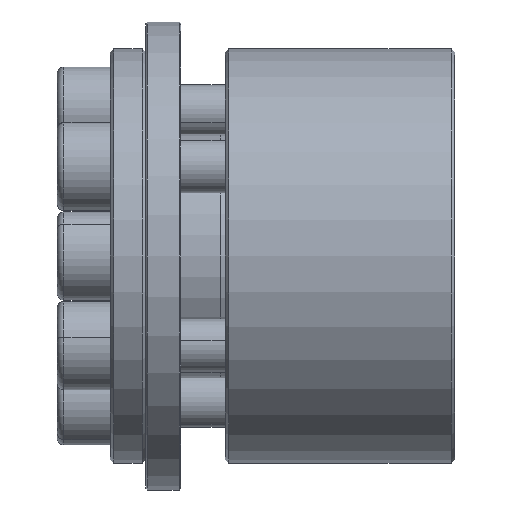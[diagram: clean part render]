
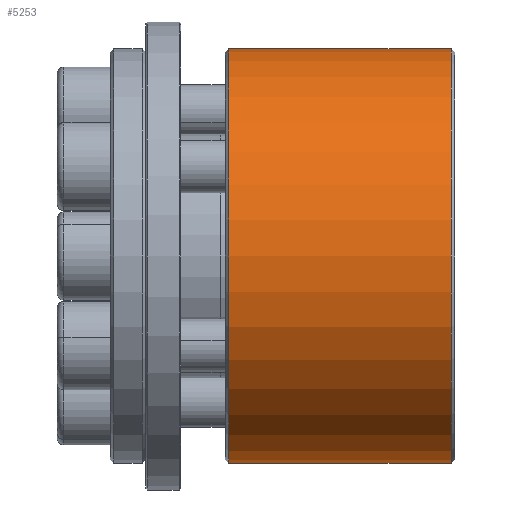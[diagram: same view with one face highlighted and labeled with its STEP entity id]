
A CAD part, front view. The second image highlights one B-rep face of the part: STEP entity #5253.
In plain terms, the highlighted cylindrical face has radius 23.46 mm (diameter 46.92 mm), a partial arc.
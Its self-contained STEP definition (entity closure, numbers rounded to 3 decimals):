
#191 = LINE ( 'NONE', #6142, #1872 ) ;
#220 = DIRECTION ( 'NONE',  ( 0., 0., -1. ) ) ;
#322 = CIRCLE ( 'NONE', #4881, 23.46 ) ;
#516 = ORIENTED_EDGE ( 'NONE', *, *, #4852, .T. ) ;
#823 = DIRECTION ( 'NONE',  ( -1., 0., 0. ) ) ;
#854 = CYLINDRICAL_SURFACE ( 'NONE', #2556, 23.46 ) ;
#1197 = DIRECTION ( 'NONE',  ( -1., 0., 0. ) ) ;
#1252 = DIRECTION ( 'NONE',  ( 1., 0., 0. ) ) ;
#1320 = FACE_OUTER_BOUND ( 'NONE', #2629, .T. ) ;
#1387 = VERTEX_POINT ( 'NONE', #2504 ) ;
#1751 = CARTESIAN_POINT ( 'NONE',  ( -92.766, 26.04, 0. ) ) ;
#1872 = VECTOR ( 'NONE', #4643, 1000. ) ;
#2226 = CARTESIAN_POINT ( 'NONE',  ( -92.766, 26.04, -23.46 ) ) ;
#2504 = CARTESIAN_POINT ( 'NONE',  ( -67.166, 26.04, -23.46 ) ) ;
#2556 = AXIS2_PLACEMENT_3D ( 'NONE', #1751, #823, #2781 ) ;
#2629 = EDGE_LOOP ( 'NONE', ( #4208, #6182, #5952, #516 ) ) ;
#2781 = DIRECTION ( 'NONE',  ( 0., 0., 1. ) ) ;
#2985 = CIRCLE ( 'NONE', #4045, 23.46 ) ;
#3043 = EDGE_CURVE ( 'NONE', #3436, #3229, #191, .T. ) ;
#3226 = LINE ( 'NONE', #2226, #3606 ) ;
#3229 = VERTEX_POINT ( 'NONE', #5357 ) ;
#3436 = VERTEX_POINT ( 'NONE', #6132 ) ;
#3606 = VECTOR ( 'NONE', #1197, 1000. ) ;
#3660 = VERTEX_POINT ( 'NONE', #5971 ) ;
#4045 = AXIS2_PLACEMENT_3D ( 'NONE', #5301, #6402, #4770 ) ;
#4208 = ORIENTED_EDGE ( 'NONE', *, *, #4364, .F. ) ;
#4364 = EDGE_CURVE ( 'NONE', #1387, #3660, #3226, .T. ) ;
#4643 = DIRECTION ( 'NONE',  ( -1., 0., 0. ) ) ;
#4770 = DIRECTION ( 'NONE',  ( 0., 0., 1. ) ) ;
#4852 = EDGE_CURVE ( 'NONE', #3229, #3660, #322, .T. ) ;
#4881 = AXIS2_PLACEMENT_3D ( 'NONE', #5384, #1252, #220 ) ;
#5253 = ADVANCED_FACE ( 'NONE', ( #1320 ), #854, .T. ) ;
#5287 = EDGE_CURVE ( 'NONE', #1387, #3436, #2985, .T. ) ;
#5301 = CARTESIAN_POINT ( 'NONE',  ( -67.166, 26.04, 0. ) ) ;
#5357 = CARTESIAN_POINT ( 'NONE',  ( -92.366, 26.04, 23.46 ) ) ;
#5384 = CARTESIAN_POINT ( 'NONE',  ( -92.366, 26.04, 0. ) ) ;
#5952 = ORIENTED_EDGE ( 'NONE', *, *, #3043, .T. ) ;
#5971 = CARTESIAN_POINT ( 'NONE',  ( -92.366, 26.04, -23.46 ) ) ;
#6132 = CARTESIAN_POINT ( 'NONE',  ( -67.166, 26.04, 23.46 ) ) ;
#6142 = CARTESIAN_POINT ( 'NONE',  ( -92.766, 26.04, 23.46 ) ) ;
#6182 = ORIENTED_EDGE ( 'NONE', *, *, #5287, .T. ) ;
#6402 = DIRECTION ( 'NONE',  ( -1., 0., 0. ) ) ;
